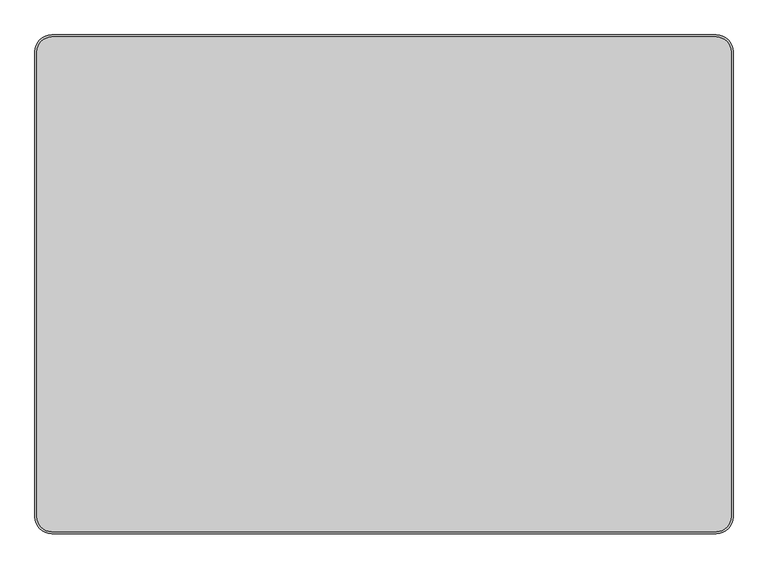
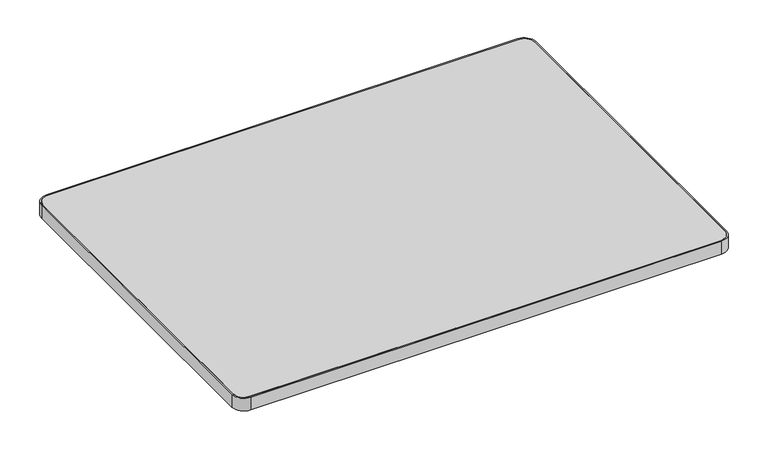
"""IFC4 building model written with IfcOpenShell, lengths in millimetres: furniture geometry, Steelcase - Groupwork - Table - Top - Rectangular : 30D x 42W - HPL."""

from ifc_helpers import new_model, si_unit, point, frame, frame_2d, origin, place, context, project, spatial, polyline, circle_curve, trimmed, segment, composite_curve, outline, extrude, source, transform, mapped, element, save


def furniture_11480e7a(model_context):
    return source(origin(), model_context, "Body", "SweptSolid", [
        extrude(outline(composite_curve([segment(polyline([(-535.94, 378.0), (479.14, 378.0)]), True, "CONTINUOUS"), segment(trimmed(circle_curve(frame_2d((479.14, 355.14)), 22.86), [point((479.14, 378.0))], [point((502.0, 355.14))], False, "CARTESIAN"), True, "CONTINUOUS"), segment(polyline([(502.0, 355.14), (502.0, -355.14)]), True, "CONTINUOUS"), segment(trimmed(circle_curve(frame_2d((479.14, -355.14)), 22.86), [point((502.0, -355.14))], [point((479.14, -378.0))], False, "CARTESIAN"), True, "CONTINUOUS"), segment(polyline([(479.14, -378.0), (-535.94, -378.0)]), True, "CONTINUOUS"), segment(trimmed(circle_curve(frame_2d((-535.94, -355.14)), 22.86), [point((-535.94, -378.0))], [point((-558.8, -355.14))], False, "CARTESIAN"), True, "CONTINUOUS"), segment(polyline([(-558.8, -355.14), (-558.8, 355.14)]), True, "CONTINUOUS"), segment(trimmed(circle_curve(frame_2d((-535.94, 355.14)), 22.86), [point((-558.8, 355.14))], [point((-535.94, 378.0))], False, "CARTESIAN"), True, "CONTINUOUS")], self_intersect=False)), frame((0.0, 0.0, 694.944), z_axis=(0.0, 0.0, 1.0), x_axis=(1.0, 0.0, 0.0)), (0.0, 0.0, 1.0), 28.956),
        extrude(outline(composite_curve([segment(trimmed(circle_curve(frame_2d((479.5385373, 355.5385373)), 25.4614627), [point((479.5385373, 381.0))], [point((505.0, 355.5385373))], False, "CARTESIAN"), True, "CONTINUOUS"), segment(polyline([(505.0, 355.5385373), (505.0, -355.6211297)]), True, "CONTINUOUS"), segment(trimmed(circle_curve(frame_2d((479.6211297, -355.6211297)), 25.3788703), [point((505.0, -355.6211297))], [point((479.6211297, -381.0))], False, "CARTESIAN"), True, "CONTINUOUS"), segment(polyline([(479.6211297, -381.0), (-536.4, -381.0)]), True, "CONTINUOUS"), segment(trimmed(circle_curve(frame_2d((-536.4, -355.6)), 25.4), [point((-536.4, -381.0))], [point((-561.8, -355.6))], False, "CARTESIAN"), True, "CONTINUOUS"), segment(polyline([(-561.8, -355.6), (-561.8, 355.6)]), True, "CONTINUOUS"), segment(trimmed(circle_curve(frame_2d((-536.4, 355.6)), 25.4), [point((-561.8, 355.6))], [point((-536.4, 381.0))], False, "CARTESIAN"), True, "CONTINUOUS"), segment(polyline([(-536.4, 381.0), (479.5385373, 381.0)]), True, "CONTINUOUS")], self_intersect=False), holes=[composite_curve([segment(polyline([(479.2064662, 378.0), (-535.94, 378.0)]), True, "CONTINUOUS"), segment(trimmed(circle_curve(frame_2d((-535.94, 355.14)), 22.86), [point((-535.94, 378.0))], [point((-558.8, 355.14))], True, "CARTESIAN"), True, "CONTINUOUS"), segment(polyline([(-558.8, 355.14), (-558.8, -355.14)]), True, "CONTINUOUS"), segment(trimmed(circle_curve(frame_2d((-535.94, -355.14)), 22.86), [point((-558.8, -355.14))], [point((-535.94, -378.0))], True, "CARTESIAN"), True, "CONTINUOUS"), segment(polyline([(-535.94, -378.0), (478.973488, -378.0)]), True, "CONTINUOUS"), segment(trimmed(circle_curve(frame_2d((478.973488, -354.973488)), 23.026512), [point((478.973488, -378.0))], [point((502.0, -354.973488))], True, "CARTESIAN"), True, "CONTINUOUS"), segment(polyline([(502.0, -354.973488), (502.0, 355.2064662)]), True, "CONTINUOUS"), segment(trimmed(circle_curve(frame_2d((479.2064662, 355.2064662)), 22.7935338), [point((502.0, 355.2064662))], [point((479.2064662, 378.0))], True, "CARTESIAN"), True, "CONTINUOUS")], self_intersect=False)]), frame((0.0, 0.0, 694.944), z_axis=(0.0, 0.0, 1.0), x_axis=(1.0, 0.0, 0.0)), (0.0, 0.0, 1.0), 28.956),
    ])


if __name__ == "__main__":
    model = new_model("IFC4")
    model_context = context("Model", 3, world=origin())
    ifc_project = project(units=[si_unit("LENGTHUNIT", "METRE", prefix="MILLI")], contexts=[model_context])
    site = spatial("IfcSite", under=ifc_project)
    building = spatial("IfcBuilding", under=site)
    placement = place(None, origin())
    furniture_shape = furniture_11480e7a(model_context)
    element("IfcFurniture", 1, ObjectType="Steelcase - Groupwork - Table - Top - Rectangular : 30D x 42W - HPL", at=placement, inside=building, context=model_context, shape_type="MappedRepresentation", body=[
        mapped(furniture_shape, transform((0.0, 0.0, 0.0), x_axis=(1.0, 0.0, 0.0), y_axis=(0.0, 1.0, 0.0), z_axis=(0.0, 0.0, 1.0))),
    ])
    save(model, "model.ifc")
